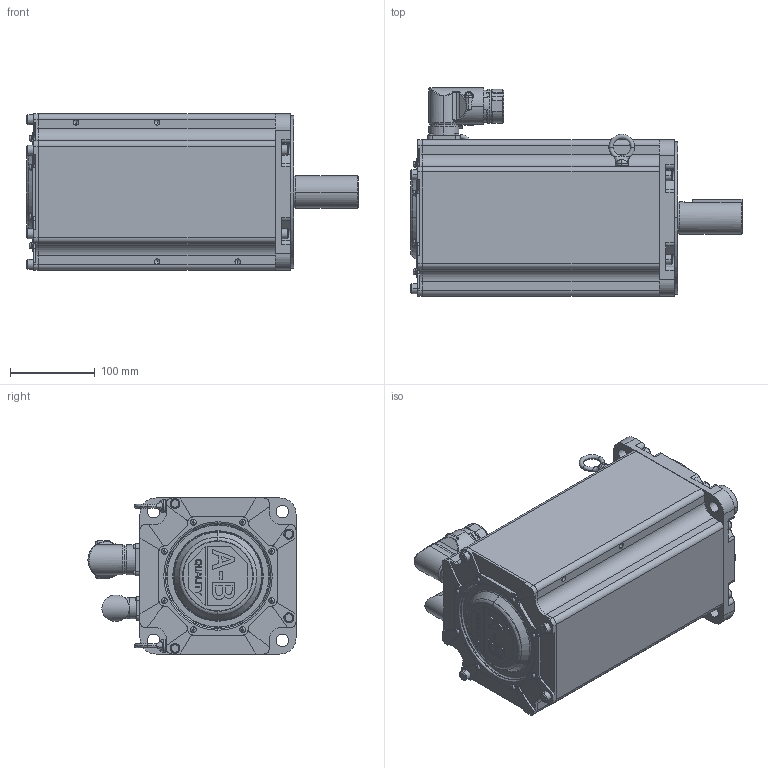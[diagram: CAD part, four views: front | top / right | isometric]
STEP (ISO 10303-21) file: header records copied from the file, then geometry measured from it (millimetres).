
FILE_DESCRIPTION (( 'STEP AP214' ), '1' );
FILE_NAME ('Rockwell Automation-MPL-x640x-xJ74AA.STEP', '2015-07-08T13:41:06', ( 'Windows User' ), ( '' ), 'SwSTEP 2.0', 'SolidWorks 2015', '' );
FILE_SCHEMA (( 'AUTOMOTIVE_DESIGN' ));
Length unit declared in the file: inch
Products named in the file (6): Rockwell Automation-MPL-x640x-xJ74AA_MPL-6xx-Eyebolt; Rockwell Automation-MPL-x640x-xJ74AA_MPL-6xx-Encoder Connector; Rockwell Automation-MPL-x640x-xJ74AA_MPL-6xx-Power Connector-M40; Rockwell Automation-MPL-x640x-xJ74AA_MPL-6xx-Shaft-Key_640-shaft-keyed-BRAKE; Rockwell Automation-MPL-x640x-xJ74AA_MPL-6xx-Body_640-BRAKE; Rockwell Automation-MPL-x640x-xJ74AA
Assembly tree (6 placements, depth 2):
  Rockwell Automation-MPL-x640x-xJ74AA
    Rockwell Automation-MPL-x640x-xJ74AA_MPL-6xx-Body_640-BRAKE
    Rockwell Automation-MPL-x640x-xJ74AA_MPL-6xx-Shaft-Key_640-shaft-keyed-BRAKE
    Rockwell Automation-MPL-x640x-xJ74AA_MPL-6xx-Power Connector-M40
    Rockwell Automation-MPL-x640x-xJ74AA_MPL-6xx-Encoder Connector
    Rockwell Automation-MPL-x640x-xJ74AA_MPL-6xx-Eyebolt  x2
Bounding box: 392.68 x 246.11 x 184.66 mm (x, y, z)
Volume: 5180753.4 mm3; surface area: 655166.7 mm2
Topology: 9 solids, 9 shells, 1036 faces, 2553 edges, 1625 vertices
Faces by surface type: plane 436, cylinder 357, torus 108, cone 84, bspline 51
Entity records: 35917 total; most frequent: CARTESIAN_POINT 9440, DIRECTION 5277, ORIENTED_EDGE 4984, EDGE_CURVE 2492, AXIS2_PLACEMENT_3D 1967, VERTEX_POINT 1599, VECTOR 1343, LINE 1343
